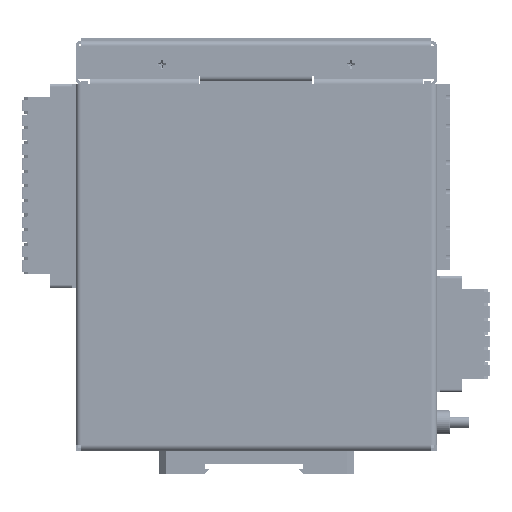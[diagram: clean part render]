
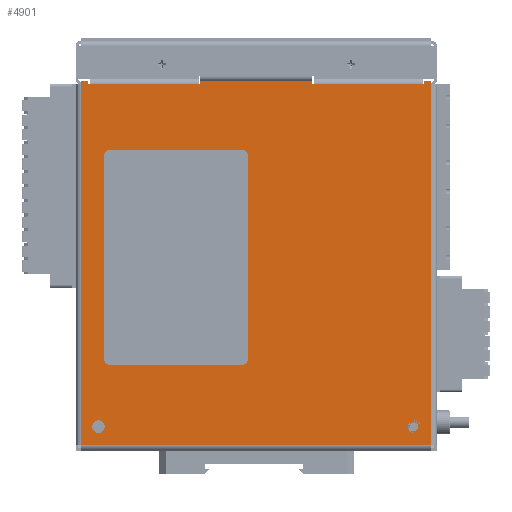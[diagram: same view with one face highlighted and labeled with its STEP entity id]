
A CAD part, left-side view. The second image highlights one B-rep face of the part: STEP entity #4901.
In plain terms, the highlighted planar face has unit normal (-1, 0, 0) as drawn and (0, 0, 1) by its records, which use the part's own axes.
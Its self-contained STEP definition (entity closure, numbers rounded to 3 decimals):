
#4901=ADVANCED_FACE('',(#188748,#188750,#188752),#188754,.T.);
#188748=FACE_BOUND('',#188749,.T.);
#188749=EDGE_LOOP('',(#335500,#335501,#335502,#335503,#335504,#335505,#335506,#335507,
#335508,#335509,#335510,#335511,#335512,#335513,#335514,#335515,#335516,#335517));
#188750=FACE_BOUND('',#188751,.T.);
#188751=EDGE_LOOP('',(#335518));
#188752=FACE_BOUND('',#188753,.T.);
#188753=EDGE_LOOP('',(#335519));
#188754=PLANE('',#188755);
#188755=AXIS2_PLACEMENT_3D('',#188756,#188757,#188758);
#188756=CARTESIAN_POINT('',(0.,0.,1.));
#188757=DIRECTION('',(0.,0.,1.));
#188758=DIRECTION('',(1.,0.,0.));
#335500=ORIENTED_EDGE('',*,*,#467647,.F.);
#335501=ORIENTED_EDGE('',*,*,#467648,.T.);
#335502=ORIENTED_EDGE('',*,*,#467649,.T.);
#335503=ORIENTED_EDGE('',*,*,#467650,.T.);
#335504=ORIENTED_EDGE('',*,*,#467651,.T.);
#335505=ORIENTED_EDGE('',*,*,#467652,.T.);
#335506=ORIENTED_EDGE('',*,*,#467653,.F.);
#335507=ORIENTED_EDGE('',*,*,#467654,.T.);
#335508=ORIENTED_EDGE('',*,*,#467655,.T.);
#335509=ORIENTED_EDGE('',*,*,#467656,.T.);
#335510=ORIENTED_EDGE('',*,*,#467657,.T.);
#335511=ORIENTED_EDGE('',*,*,#467445,.T.);
#335512=ORIENTED_EDGE('',*,*,#467658,.T.);
#335513=ORIENTED_EDGE('',*,*,#467659,.T.);
#335514=ORIENTED_EDGE('',*,*,#467660,.T.);
#335515=ORIENTED_EDGE('',*,*,#467661,.T.);
#335516=ORIENTED_EDGE('',*,*,#467662,.T.);
#335517=ORIENTED_EDGE('',*,*,#467663,.T.);
#335518=ORIENTED_EDGE('',*,*,#467664,.T.);
#335519=ORIENTED_EDGE('',*,*,#467665,.T.);
#467445=EDGE_CURVE('',#529083,#529085,#529087,.T.);
#467647=EDGE_CURVE('',#529389,#529390,#529391,.T.);
#467648=EDGE_CURVE('',#529389,#529392,#529393,.F.);
#467649=EDGE_CURVE('',#529392,#529394,#529395,.F.);
#467650=EDGE_CURVE('',#529394,#529396,#529397,.F.);
#467651=EDGE_CURVE('',#529396,#529398,#529399,.F.);
#467652=EDGE_CURVE('',#529398,#529400,#529401,.F.);
#467653=EDGE_CURVE('',#529402,#529400,#529403,.T.);
#467654=EDGE_CURVE('',#529402,#529404,#529405,.F.);
#467655=EDGE_CURVE('',#529404,#529406,#529407,.F.);
#467656=EDGE_CURVE('',#529406,#529408,#529409,.T.);
#467657=EDGE_CURVE('',#529408,#529083,#529410,.F.);
#467658=EDGE_CURVE('',#529085,#529411,#529412,.T.);
#467659=EDGE_CURVE('',#529411,#529413,#529414,.T.);
#467660=EDGE_CURVE('',#529413,#529415,#529416,.F.);
#467661=EDGE_CURVE('',#529415,#529417,#529418,.T.);
#467662=EDGE_CURVE('',#529417,#529419,#529420,.F.);
#467663=EDGE_CURVE('',#529419,#529390,#529421,.F.);
#467664=EDGE_CURVE('',#529422,#529422,#529423,.T.);
#467665=EDGE_CURVE('',#529424,#529424,#529425,.T.);
#529083=VERTEX_POINT('',#632470);
#529085=VERTEX_POINT('',#632475);
#529087=LINE('',#632480,#632481);
#529389=VERTEX_POINT('',#633190);
#529390=VERTEX_POINT('',#633191);
#529391=LINE('',#633192,#633193);
#529392=VERTEX_POINT('',#633195);
#529393=LINE('',#633196,#633197);
#529394=VERTEX_POINT('',#633199);
#529395=LINE('',#633200,#633201);
#529396=VERTEX_POINT('',#633203);
#529397=LINE('',#633204,#633205);
#529398=VERTEX_POINT('',#633207);
#529399=LINE('',#633208,#633209);
#529400=VERTEX_POINT('',#633211);
#529401=LINE('',#633212,#633213);
#529402=VERTEX_POINT('',#633215);
#529403=LINE('',#633216,#633217);
#529404=VERTEX_POINT('',#633219);
#529405=LINE('',#633220,#633221);
#529406=VERTEX_POINT('',#633223);
#529407=LINE('',#633224,#633225);
#529408=VERTEX_POINT('',#633227);
#529409=LINE('',#633228,#633229);
#529410=LINE('',#633231,#633232);
#529411=VERTEX_POINT('',#633234);
#529412=LINE('',#633235,#633236);
#529413=VERTEX_POINT('',#633238);
#529414=LINE('',#633239,#633240);
#529415=VERTEX_POINT('',#633242);
#529416=LINE('',#633243,#633244);
#529417=VERTEX_POINT('',#633246);
#529418=LINE('',#633247,#633248);
#529419=VERTEX_POINT('',#633250);
#529420=LINE('',#633251,#633252);
#529421=LINE('',#633254,#633255);
#529422=VERTEX_POINT('',#633257);
#529423=CIRCLE('',#633258,1.5);
#529424=VERTEX_POINT('',#633262);
#529425=CIRCLE('',#633263,1.5);
#632470=CARTESIAN_POINT('',(-62.5,-61.,1.));
#632475=CARTESIAN_POINT('',(63.5,-61.,1.));
#632480=CARTESIAN_POINT('',(-62.5,-61.,1.));
#632481=VECTOR('',#632482,1.);
#632482=DIRECTION('',(1.,0.,0.));
#633190=CARTESIAN_POINT('',(-62.5,20.,1.));
#633191=CARTESIAN_POINT('',(-62.5,58.,1.));
#633192=CARTESIAN_POINT('',(-62.5,20.,1.));
#633193=VECTOR('',#633194,1.);
#633194=DIRECTION('',(0.,1.,0.));
#633195=CARTESIAN_POINT('',(-62.5,19.5,1.));
#633196=CARTESIAN_POINT('',(-62.5,19.5,1.));
#633197=VECTOR('',#633198,1.);
#633198=DIRECTION('',(0.,1.,0.));
#633199=CARTESIAN_POINT('',(-63.5,19.5,1.));
#633200=CARTESIAN_POINT('',(-63.5,19.5,1.));
#633201=VECTOR('',#633202,1.);
#633202=DIRECTION('',(1.,0.,0.));
#633203=CARTESIAN_POINT('',(-63.5,-19.5,1.));
#633204=CARTESIAN_POINT('',(-63.5,-19.5,1.));
#633205=VECTOR('',#633206,1.);
#633206=DIRECTION('',(0.,1.,0.));
#633207=CARTESIAN_POINT('',(-62.5,-19.5,1.));
#633208=CARTESIAN_POINT('',(-62.5,-19.5,1.));
#633209=VECTOR('',#633210,1.);
#633210=DIRECTION('',(-1.,0.,0.));
#633211=CARTESIAN_POINT('',(-62.5,-20.,1.));
#633212=CARTESIAN_POINT('',(-62.5,-20.,1.));
#633213=VECTOR('',#633214,1.);
#633214=DIRECTION('',(0.,1.,0.));
#633215=CARTESIAN_POINT('',(-62.5,-58.,1.));
#633216=CARTESIAN_POINT('',(-62.5,-58.,1.));
#633217=VECTOR('',#633218,1.);
#633218=DIRECTION('',(0.,1.,0.));
#633219=CARTESIAN_POINT('',(-62.5,-58.5,1.));
#633220=CARTESIAN_POINT('',(-62.5,-58.5,1.));
#633221=VECTOR('',#633222,1.);
#633222=DIRECTION('',(0.,1.,0.));
#633223=CARTESIAN_POINT('',(-63.5,-58.5,1.));
#633224=CARTESIAN_POINT('',(-63.5,-58.5,1.));
#633225=VECTOR('',#633226,1.);
#633226=DIRECTION('',(1.,0.,0.));
#633227=CARTESIAN_POINT('',(-63.5,-61.,1.));
#633228=CARTESIAN_POINT('',(-63.5,-58.5,1.));
#633229=VECTOR('',#633230,1.);
#633230=DIRECTION('',(0.,-1.,0.));
#633231=CARTESIAN_POINT('',(-62.5,-61.,1.));
#633232=VECTOR('',#633233,1.);
#633233=DIRECTION('',(-1.,0.,0.));
#633234=CARTESIAN_POINT('',(63.5,61.,1.));
#633235=CARTESIAN_POINT('',(63.5,-61.,1.));
#633236=VECTOR('',#633237,1.);
#633237=DIRECTION('',(0.,1.,0.));
#633238=CARTESIAN_POINT('',(-62.5,61.,1.));
#633239=CARTESIAN_POINT('',(63.5,61.,1.));
#633240=VECTOR('',#633241,1.);
#633241=DIRECTION('',(-1.,0.,0.));
#633242=CARTESIAN_POINT('',(-63.5,61.,1.));
#633243=CARTESIAN_POINT('',(-63.5,61.,1.));
#633244=VECTOR('',#633245,1.);
#633245=DIRECTION('',(1.,0.,0.));
#633246=CARTESIAN_POINT('',(-63.5,58.5,1.));
#633247=CARTESIAN_POINT('',(-63.5,61.,1.));
#633248=VECTOR('',#633249,1.);
#633249=DIRECTION('',(0.,-1.,0.));
#633250=CARTESIAN_POINT('',(-62.5,58.5,1.));
#633251=CARTESIAN_POINT('',(-62.5,58.5,1.));
#633252=VECTOR('',#633253,1.);
#633253=DIRECTION('',(-1.,0.,0.));
#633254=CARTESIAN_POINT('',(-62.5,58.,1.));
#633255=VECTOR('',#633256,1.);
#633256=DIRECTION('',(0.,1.,0.));
#633257=CARTESIAN_POINT('',(58.5,-55.,1.));
#633258=AXIS2_PLACEMENT_3D('',#633259,#633260,#633261);
#633259=CARTESIAN_POINT('',(57.,-55.,1.));
#633260=DIRECTION('',(0.,0.,-1.));
#633261=DIRECTION('',(1.,0.,0.));
#633262=CARTESIAN_POINT('',(58.5,55.,1.));
#633263=AXIS2_PLACEMENT_3D('',#633264,#633265,#633266);
#633264=CARTESIAN_POINT('',(57.,55.,1.));
#633265=DIRECTION('',(0.,0.,-1.));
#633266=DIRECTION('',(1.,0.,0.));
